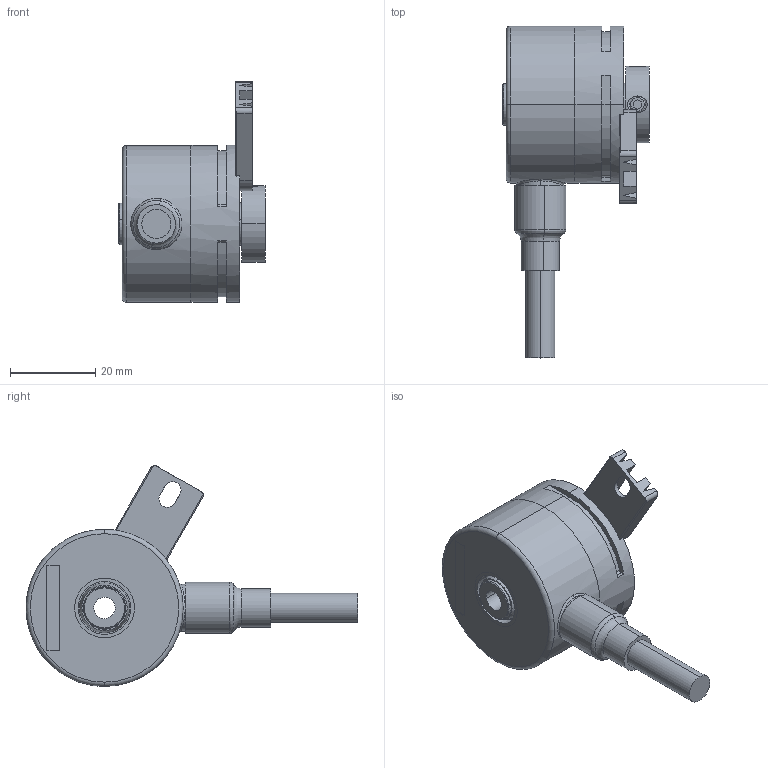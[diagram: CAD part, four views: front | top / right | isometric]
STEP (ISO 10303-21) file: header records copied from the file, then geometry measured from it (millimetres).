
FILE_DESCRIPTION (( 'STEP AP214' ), '1' );
FILE_NAME ('3720.22X1.XXXX.STEP', '2008-11-28T06:25:38', ( 'admin' ), ( 'Fritz Kübler GmbH' ), 'SwSTEP 2.0', 'SolidWorks 2008', '' );
FILE_SCHEMA (( 'AUTOMOTIVE_DESIGN' ));
Length unit declared in the file: millimetre
Products named in the file (1): 3720.22X1.XXXX
Bounding box: 34.3 x 77.8 x 51.76 mm (x, y, z)
Volume: 17188.6 mm3; surface area: 19661.2 mm2
Topology: 12 solids, 12 shells, 772 faces, 1900 edges, 1175 vertices
Faces by surface type: cylinder 286, plane 236, torus 90, bspline 77, cone 58, sphere 25
Entity records: 34159 total; most frequent: CARTESIAN_POINT 7815, DIRECTION 3800, ORIENTED_EDGE 3754, EDGE_CURVE 1877, AXIS2_PLACEMENT_3D 1558, VERTEX_POINT 1165, CIRCLE 862, EDGE_LOOP 832
